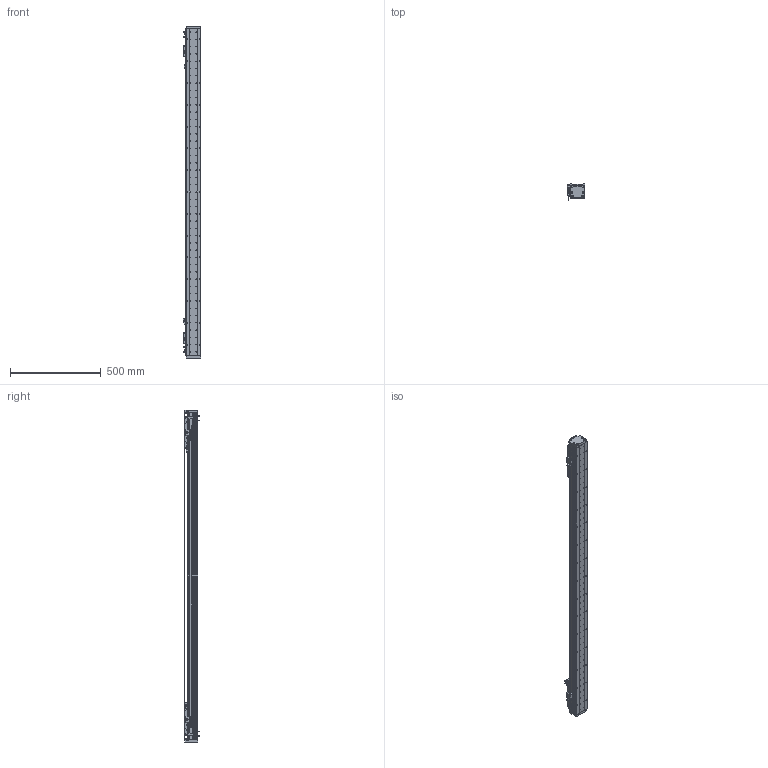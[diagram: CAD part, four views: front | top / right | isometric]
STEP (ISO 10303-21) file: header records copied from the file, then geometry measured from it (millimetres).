
FILE_DESCRIPTION (( 'STEP AP203' ), '1' );
FILE_NAME ('DA-A82-2-B2-T1380-C010-0.2 眻盄萇儂.STEP', '2025-08-13T02:35:12', ( '' ), ( '' ), 'SwSTEP 2.0', 'SolidWorks 2019', '' );
FILE_SCHEMA (( 'CONFIG_CONTROL_DESIGN' ));
Length unit declared in the file: millimetre
Products named in the file (29): 复件 复件 DA82-XJ-00 缓冲橡胶^DA-A82-B2-T-C010-0.2-N 直线电机; 葩璃 PM-L25^DA-A82-B2-T-C010-0.2-N 眻盄萇儂; 复件 复件 复件 DA82 钢带盖板^DA-A82-B2-T-C010-0.2-N 直线电机(默认); AU82-M 幗紩賑怢; IU-AU82-L 菁釱絳寢; 葩璃 BKM01-W040-TRL^DA-A82-B2-T-C010-0.2-N 眻盄萇儂; 复件 六角薄螺母 M3^DA-A82-B2-T-C010-0.2-N 直线电机; 复件 纯铜油杯 6x6mm^AU82-M 滚珠滑台; 复件 复件 17517-0000-004-00  钢带压块^DA-A82-B2-T-C010-0.2-N 直线电机(默认); 复件 DA60-DMT-DTJ-00 读数头支架^DA-A82-B2-T-C010-0.2-N 直线电机; 葩璃 DA82-B2-DP-00 結え^AU82-M 幗紩賑怢; 复件 复件 17517-0000-002-00 端板^DA-A82-B2-T-C010-0.2-N 直线电机; 复件 复件 17517-0000-003-00 钢带拉块^DA-A82-B2-T-C010-0.2-N 直线电机; 复件 BKM02-W040-C1-TP-DA-3.0 直线电机动子^DA-A82-B2-T-C010-0.2-N 直线电机; AU82-HT-M-00 賑雄怢啣; 葩璃 DMT-010 1米m 0.2M^DA-A82-B2-T-C010-0.2-N 眻盄萇儂; 复件 DA82-GDZ-ZJ-00 中间光电固定座^DA-A82-B2-T-C010-0.2-N 直线电机; 复件 DA95-B2-GT-00 滑块钢轨^AU82-M-00 一体化滑动台板; 复件 XD-U-02  磁栅尺^DA-A82-B2-T-C010-0.2-N 直线电机; DA-A60-GYP-DMT-00 光电感应片^DA-A82-B2-T-C010-0.2-N 直线电机(默认); AU82-M-00 珨极趙賑雄怢啣-1; 复件 DA82-GYP-ZJ-00 中间光电感应片^DA-A82-B2-T-C010-0.2-N 直线电机; DA-A82-2-B2-T1380-C010-0.2 眻盄萇儂; IU-AU82-L-00 菁釱(L1800); AU82-M-00 珨极趙賑雄怢啣; 复件 DKW-GJ-XJ-00 防撞橡胶^DA-A82-B2-T-C010-0.2-N 直线电机; 葩璃 PM-T45^DA-A82-B2-T-C010-0.2-N 眻盄萇儂; 复件 DA95-GT-T-00 底座钢轨^IU-AU82-L 底座导轨; AU82-M 幗紩賑怢-1
Assembly tree (61 placements, depth 4):
  DA-A82-2-B2-T1380-C010-0.2 眻盄萇儂
    IU-AU82-L 菁釱絳寢
      IU-AU82-L-00 菁釱(L1800)
      复件 DA95-GT-T-00 底座钢轨^IU-AU82-L 底座导轨  x2
    AU82-M 幗紩賑怢
      AU82-M-00 珨极趙賑雄怢啣
        AU82-HT-M-00 賑雄怢啣
        复件 DA95-B2-GT-00 滑块钢轨^AU82-M-00 一体化滑动台板  x4
      葩璃 DA82-B2-DP-00 結え^AU82-M 幗紩賑怢  x2
      复件 纯铜油杯 6x6mm^AU82-M 滚珠滑台  x2
    AU82-M 幗紩賑怢-1
      AU82-M-00 珨极趙賑雄怢啣-1
        AU82-HT-M-00 賑雄怢啣
        复件 DA95-B2-GT-00 滑块钢轨^AU82-M-00 一体化滑动台板  x4
      葩璃 DA82-B2-DP-00 結え^AU82-M 幗紩賑怢  x2
      复件 纯铜油杯 6x6mm^AU82-M 滚珠滑台  x2
    复件 BKM02-W040-C1-TP-DA-3.0 直线电机动子^DA-A82-B2-T-C010-0.2-N 直线电机  x2
    复件 DA60-DMT-DTJ-00 读数头支架^DA-A82-B2-T-C010-0.2-N 直线电机  x2
    葩璃 DMT-010 1米m 0.2M^DA-A82-B2-T-C010-0.2-N 眻盄萇儂  x2
    DA-A60-GYP-DMT-00 光电感应片^DA-A82-B2-T-C010-0.2-N 直线电机(默认)  x2
    复件 DA82-GDZ-ZJ-00 中间光电固定座^DA-A82-B2-T-C010-0.2-N 直线电机
    葩璃 PM-L25^DA-A82-B2-T-C010-0.2-N 眻盄萇儂
    复件 DA82-GYP-ZJ-00 中间光电感应片^DA-A82-B2-T-C010-0.2-N 直线电机
    复件 DKW-GJ-XJ-00 防撞橡胶^DA-A82-B2-T-C010-0.2-N 直线电机
    复件 复件 17517-0000-003-00 钢带拉块^DA-A82-B2-T-C010-0.2-N 直线电机  x2
    复件 复件 DA82-XJ-00 缓冲橡胶^DA-A82-B2-T-C010-0.2-N 直线电机  x2
    复件 复件 17517-0000-004-00  钢带压块^DA-A82-B2-T-C010-0.2-N 直线电机(默认)  x2
    复件 复件 17517-0000-002-00 端板^DA-A82-B2-T-C010-0.2-N 直线电机  x2
    复件 复件 复件 DA82 钢带盖板^DA-A82-B2-T-C010-0.2-N 直线电机(默认)
    葩璃 BKM01-W040-TRL^DA-A82-B2-T-C010-0.2-N 眻盄萇儂
    葩璃 PM-T45^DA-A82-B2-T-C010-0.2-N 眻盄萇儂  x4
    复件 XD-U-02  磁栅尺^DA-A82-B2-T-C010-0.2-N 直线电机
    复件 六角薄螺母 M3^DA-A82-B2-T-C010-0.2-N 直线电机  x8
Bounding box: 98.95 x 87.2 x 1828 mm (x, y, z)
Volume: 5663661.7 mm3; surface area: 1691092 mm2
Topology: 70 solids, 118 shells, 3475 faces, 9017 edges, 5614 vertices
Faces by surface type: cylinder 1619, plane 1364, cone 456, bspline 16, torus 16, sphere 4
Entity records: 73977 total; most frequent: CARTESIAN_POINT 16537, DIRECTION 11475, ORIENTED_EDGE 10816, EDGE_CURVE 5408, AXIS2_PLACEMENT_3D 4387, VERTEX_POINT 3518, EDGE_LOOP 2758, VECTOR 2701
